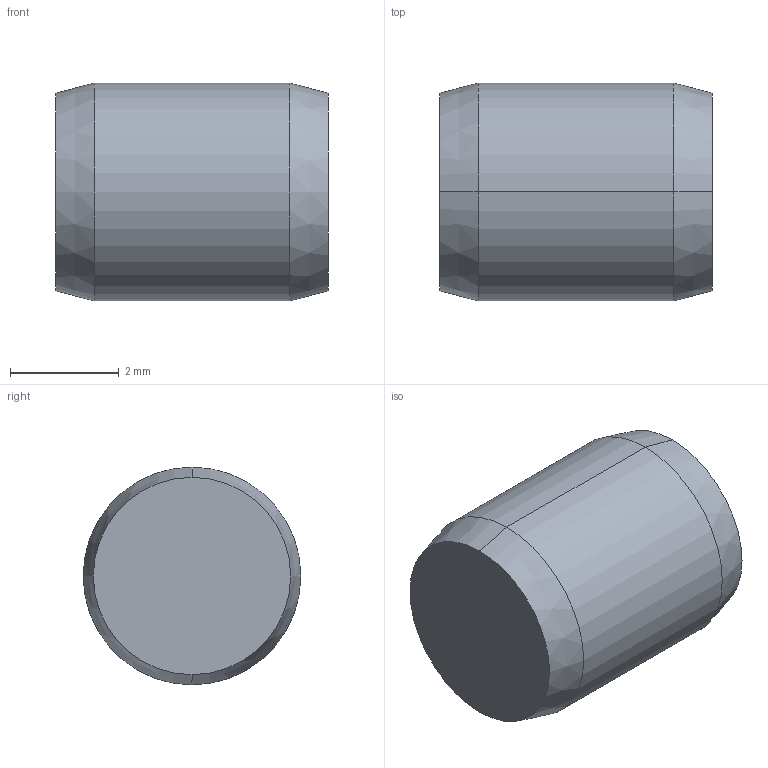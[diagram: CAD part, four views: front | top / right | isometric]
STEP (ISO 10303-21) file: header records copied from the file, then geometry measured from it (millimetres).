
FILE_DESCRIPTION (( 'STEP AP203' ), '1' );
FILE_NAME ('P1206.040-005 .step', '2017-06-14T08:08:06', ( 'User' ), ( '' ), 'SwSTEP 2.0', 'SolidWorks 2009', '' );
FILE_SCHEMA (( 'CONFIG_CONTROL_DESIGN' ));
Length unit declared in the file: millimetre
Products named in the file (1): P1206.040-005 
Bounding box: 5 x 4 x 4 mm (x, y, z)
Volume: 61.2 mm3; surface area: 83.2 mm2
Topology: 1 solids, 1 shells, 8 faces, 14 edges, 8 vertices
Faces by surface type: cone 4, cylinder 2, plane 2
Entity records: 271 total; most frequent: DIRECTION 40, CARTESIAN_POINT 31, ORIENTED_EDGE 28, AXIS2_PLACEMENT_3D 17, EDGE_CURVE 14, EDGE_LOOP 8, ADVANCED_FACE 8, VERTEX_POINT 8
